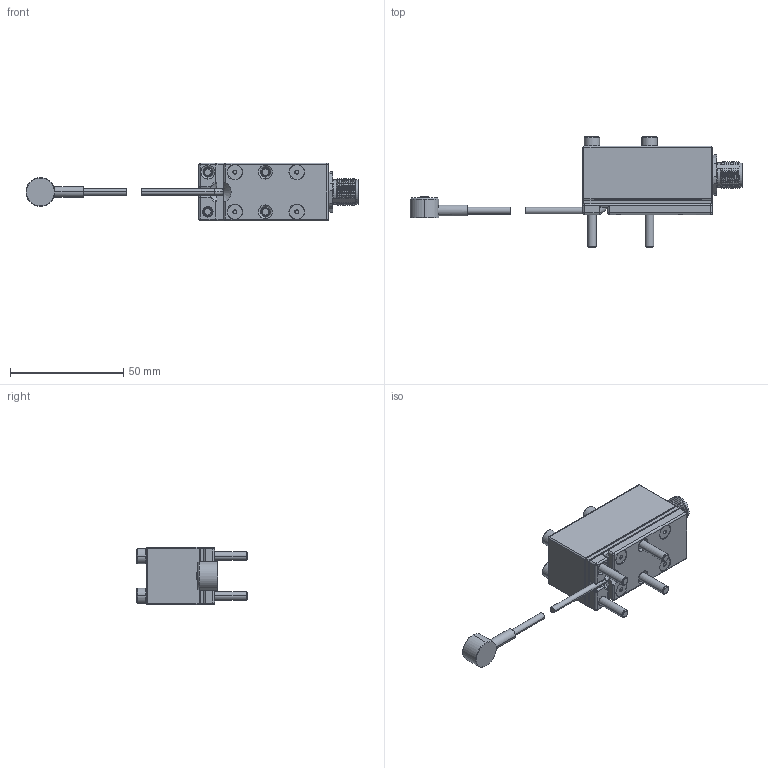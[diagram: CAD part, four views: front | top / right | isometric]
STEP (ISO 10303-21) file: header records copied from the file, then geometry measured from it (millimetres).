
FILE_DESCRIPTION (( 'STEP AP214' ), '1' );
FILE_NAME ('LS-B-127-XXX.STEP', '2024-03-06T15:44:53', ( '' ), ( '' ), 'SwSTEP 2.0', 'SolidWorks 2023', '' );
FILE_SCHEMA (( 'AUTOMOTIVE_DESIGN' ));
Length unit declared in the file: millimetre
Products named in the file (10): LS-B-127-XXX (MA-LSMP-CAS); 92210A110_18-8 Stainless Steel Hex Drive Flat Head Screw_92210A110; LS-B-127 Shield Plate; SACC-E-M12MS-4CON-PG9-0,5; Cable; LS-B-127-XXX; LS-B-127 EMI Gasket; 92196A204_18-8 Stainless Steel Socket Head Screw Simplified_92196A204; Sensor Head; LS-B-127 Bottom Plate
Assembly tree (15 placements, depth 2):
  LS-B-127-XXX
    LS-B-127-XXX (MA-LSMP-CAS)
    LS-B-127 EMI Gasket
    LS-B-127 Bottom Plate
    LS-B-127 Shield Plate
    92210A110_18-8 Stainless Steel Hex Drive Flat Head Screw_92210A110  x4
    SACC-E-M12MS-4CON-PG9-0,5
    Cable
    92196A204_18-8 Stainless Steel Socket Head Screw Simplified_92196A204  x4
    Sensor Head
Bounding box: 146.38 x 48.62 x 25.4 mm (x, y, z)
Volume: 35977.2 mm3; surface area: 28234.9 mm2
Topology: 16 solids, 16 shells, 1723 faces, 4519 edges, 2888 vertices
Faces by surface type: plane 713, cylinder 447, bspline 311, cone 183, torus 46, sphere 23
Entity records: 86787 total; most frequent: CARTESIAN_POINT 53399, ORIENTED_EDGE 7522, DIRECTION 5810, EDGE_CURVE 3761, VERTEX_POINT 2442, LINE 2196, VECTOR 2196, AXIS2_PLACEMENT_3D 1807
